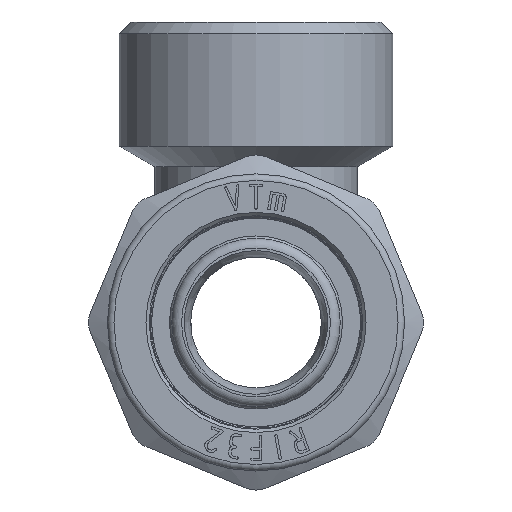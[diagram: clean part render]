
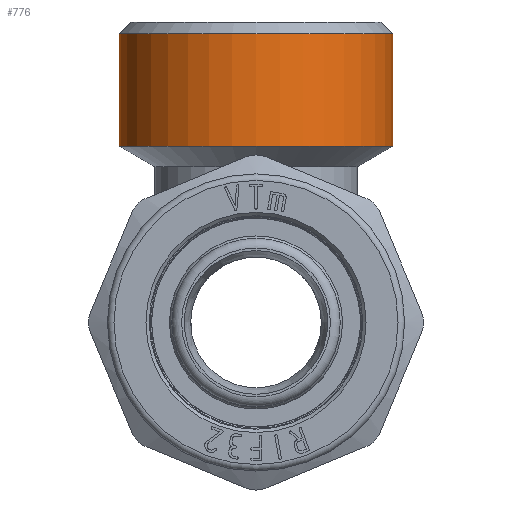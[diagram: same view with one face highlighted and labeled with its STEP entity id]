
A CAD part, front view. The second image highlights one B-rep face of the part: STEP entity #776.
In plain terms, the highlighted cylindrical face has radius 20.955 mm (diameter 41.91 mm), a full revolution.
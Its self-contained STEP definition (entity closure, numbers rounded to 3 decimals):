
#776=ADVANCED_FACE('',(#5944,#5946),#5948,.T.);
#5944=FACE_OUTER_BOUND('',#5945,.T.);
#5945=EDGE_LOOP('',(#11382));
#5946=FACE_OUTER_BOUND('',#5947,.T.);
#5947=EDGE_LOOP('',(#11383));
#5948=CYLINDRICAL_SURFACE('',#5949,20.955);
#5949=AXIS2_PLACEMENT_3D('',#5950,#5951,#5952);
#5950=CARTESIAN_POINT('',(0.,0.,27.));
#5951=DIRECTION('',(0.,0.,1.));
#5952=DIRECTION('',(0.,1.,0.));
#11382=ORIENTED_EDGE('',*,*,#13511,.F.);
#11383=ORIENTED_EDGE('',*,*,#13476,.F.);
#13476=EDGE_CURVE('',#16850,#16850,#16851,.F.);
#13511=EDGE_CURVE('',#16904,#16904,#16905,.T.);
#16850=VERTEX_POINT('',#28660);
#16851=CIRCLE('',#28661,20.955);
#16904=VERTEX_POINT('',#28787);
#16905=CIRCLE('',#28788,20.955);
#28660=CARTESIAN_POINT('',(0.,20.955,27.));
#28661=AXIS2_PLACEMENT_3D('',#28662,#28663,#28664);
#28662=CARTESIAN_POINT('',(0.,0.,27.));
#28663=DIRECTION('',(0.,0.,1.));
#28664=DIRECTION('',(0.,1.,0.));
#28787=CARTESIAN_POINT('',(0.,20.955,44.2));
#28788=AXIS2_PLACEMENT_3D('',#28789,#28790,#28791);
#28789=CARTESIAN_POINT('',(0.,0.,44.2));
#28790=DIRECTION('',(0.,0.,1.));
#28791=DIRECTION('',(0.,1.,0.));
